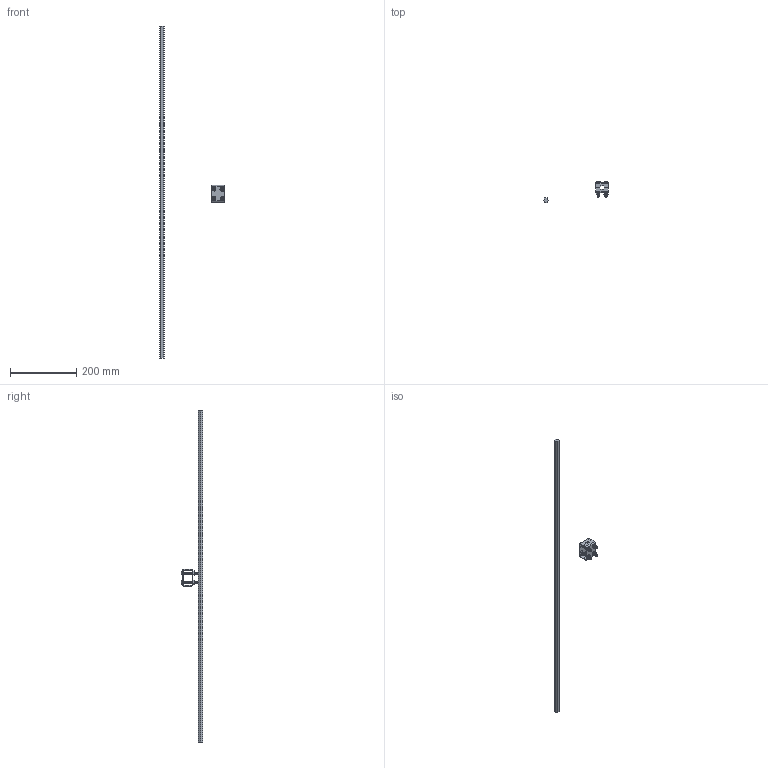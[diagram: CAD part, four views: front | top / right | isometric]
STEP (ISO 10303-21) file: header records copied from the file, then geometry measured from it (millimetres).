
FILE_DESCRIPTION (( 'STEP AP203' ), '1' );
FILE_NAME ('p2amie.STEP', '2019-04-15T18:37:24', ( '' ), ( '' ), 'SwSTEP 2.0', 'SolidWorks 2016', '' );
FILE_SCHEMA (( 'CONFIG_CONTROL_DESIGN' ));
Length unit declared in the file: millimetre
Products named in the file (6): 89164734; p2amie; 89162267_INSTALLED; 89164781_94895A029; 89159409; 89165004_93548A548
Assembly tree (12 placements, depth 3):
  p2amie
    89159409
    89162267_INSTALLED
      89164734  x2
      89164781_94895A029  x4
      89165004_93548A548  x4
Bounding box: 195.69 x 64.01 x 1000 mm (x, y, z)
Volume: 156843.7 mm3; surface area: 64678.8 mm2
Topology: 11 solids, 11 shells, 596 faces, 1598 edges, 1028 vertices
Faces by surface type: cylinder 296, plane 152, cone 100, bspline 24, torus 16, sphere 8
Entity records: 12337 total; most frequent: CARTESIAN_POINT 7612, ORIENTED_EDGE 942, DIRECTION 689, EDGE_CURVE 471, VERTEX_POINT 302, AXIS2_PLACEMENT_3D 236, VECTOR 217, LINE 217
